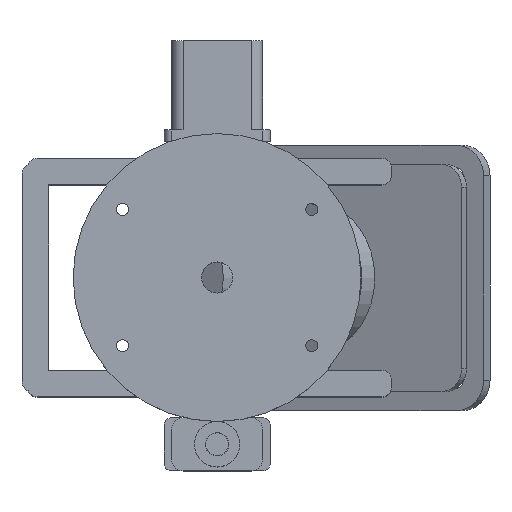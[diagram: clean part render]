
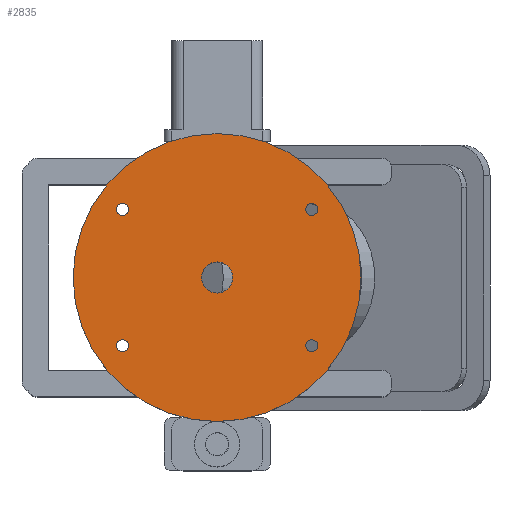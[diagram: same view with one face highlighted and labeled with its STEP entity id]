
A CAD part, top view. The second image highlights one B-rep face of the part: STEP entity #2835.
In plain terms, the highlighted planar face has unit normal (0, 0, 1).
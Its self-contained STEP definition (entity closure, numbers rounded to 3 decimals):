
#2700 = VERTEX_POINT('',#2701);
#2701 = CARTESIAN_POINT('',(38.,0.,7.));
#2708 = CYLINDRICAL_SURFACE('',#2709,38.);
#2709 = AXIS2_PLACEMENT_3D('',#2710,#2711,#2712);
#2710 = CARTESIAN_POINT('',(0.,0.,0.));
#2711 = DIRECTION('',(-0.,-0.,-1.));
#2712 = DIRECTION('',(1.,0.,0.));
#2727 = EDGE_CURVE('',#2700,#2700,#2728,.T.);
#2728 = SURFACE_CURVE('',#2729,(#2734,#2741),.PCURVE_S1.);
#2729 = CIRCLE('',#2730,38.);
#2730 = AXIS2_PLACEMENT_3D('',#2731,#2732,#2733);
#2731 = CARTESIAN_POINT('',(0.,0.,7.));
#2732 = DIRECTION('',(0.,0.,1.));
#2733 = DIRECTION('',(1.,0.,0.));
#2734 = PCURVE('',#2708,#2735);
#2735 = DEFINITIONAL_REPRESENTATION('',(#2736),#2740);
#2736 = LINE('',#2737,#2738);
#2737 = CARTESIAN_POINT('',(-0.,-7.));
#2738 = VECTOR('',#2739,1.);
#2739 = DIRECTION('',(-1.,0.));
#2740 = ( GEOMETRIC_REPRESENTATION_CONTEXT(2) 
PARAMETRIC_REPRESENTATION_CONTEXT() REPRESENTATION_CONTEXT('2D SPACE',''
  ) );
#2741 = PCURVE('',#2742,#2747);
#2742 = PLANE('',#2743);
#2743 = AXIS2_PLACEMENT_3D('',#2744,#2745,#2746);
#2744 = CARTESIAN_POINT('',(0.,0.,7.));
#2745 = DIRECTION('',(0.,0.,1.));
#2746 = DIRECTION('',(1.,0.,-0.));
#2747 = DEFINITIONAL_REPRESENTATION('',(#2748),#2752);
#2748 = CIRCLE('',#2749,38.);
#2749 = AXIS2_PLACEMENT_2D('',#2750,#2751);
#2750 = CARTESIAN_POINT('',(0.,0.));
#2751 = DIRECTION('',(1.,0.));
#2752 = ( GEOMETRIC_REPRESENTATION_CONTEXT(2) 
PARAMETRIC_REPRESENTATION_CONTEXT() REPRESENTATION_CONTEXT('2D SPACE',''
  ) );
#2835 = ADVANCED_FACE('',(#2836,#2839,#2874,#2909,#2944,#2979),#2742,.T.
  );
#2836 = FACE_BOUND('',#2837,.T.);
#2837 = EDGE_LOOP('',(#2838));
#2838 = ORIENTED_EDGE('',*,*,#2727,.T.);
#2839 = FACE_BOUND('',#2840,.T.);
#2840 = EDGE_LOOP('',(#2841));
#2841 = ORIENTED_EDGE('',*,*,#2842,.T.);
#2842 = EDGE_CURVE('',#2843,#2843,#2845,.T.);
#2843 = VERTEX_POINT('',#2844);
#2844 = CARTESIAN_POINT('',(-26.6,-18.,7.));
#2845 = SURFACE_CURVE('',#2846,(#2851,#2862),.PCURVE_S1.);
#2846 = CIRCLE('',#2847,1.6);
#2847 = AXIS2_PLACEMENT_3D('',#2848,#2849,#2850);
#2848 = CARTESIAN_POINT('',(-25.,-18.,7.));
#2849 = DIRECTION('',(0.,0.,-1.));
#2850 = DIRECTION('',(-1.,0.,0.));
#2851 = PCURVE('',#2742,#2852);
#2852 = DEFINITIONAL_REPRESENTATION('',(#2853),#2861);
#2853 = ( BOUNDED_CURVE() B_SPLINE_CURVE(2,(#2854,#2855,#2856,#2857,
#2858,#2859,#2860),.UNSPECIFIED.,.T.,.F.) B_SPLINE_CURVE_WITH_KNOTS((1,2
    ,2,2,2,1),(-2.094,0.,2.094,4.189,
6.283,8.378),.UNSPECIFIED.) CURVE() 
GEOMETRIC_REPRESENTATION_ITEM() RATIONAL_B_SPLINE_CURVE((1.,0.5,1.,0.5,
1.,0.5,1.)) REPRESENTATION_ITEM('') );
#2854 = CARTESIAN_POINT('',(-26.6,-18.));
#2855 = CARTESIAN_POINT('',(-26.6,-15.229));
#2856 = CARTESIAN_POINT('',(-24.2,-16.614));
#2857 = CARTESIAN_POINT('',(-21.8,-18.));
#2858 = CARTESIAN_POINT('',(-24.2,-19.386));
#2859 = CARTESIAN_POINT('',(-26.6,-20.771));
#2860 = CARTESIAN_POINT('',(-26.6,-18.));
#2861 = ( GEOMETRIC_REPRESENTATION_CONTEXT(2) 
PARAMETRIC_REPRESENTATION_CONTEXT() REPRESENTATION_CONTEXT('2D SPACE',''
  ) );
#2862 = PCURVE('',#2863,#2868);
#2863 = CYLINDRICAL_SURFACE('',#2864,1.6);
#2864 = AXIS2_PLACEMENT_3D('',#2865,#2866,#2867);
#2865 = CARTESIAN_POINT('',(-25.,-18.,7.));
#2866 = DIRECTION('',(0.,0.,-1.));
#2867 = DIRECTION('',(-1.,0.,0.));
#2868 = DEFINITIONAL_REPRESENTATION('',(#2869),#2873);
#2869 = LINE('',#2870,#2871);
#2870 = CARTESIAN_POINT('',(0.,0.));
#2871 = VECTOR('',#2872,1.);
#2872 = DIRECTION('',(1.,0.));
#2873 = ( GEOMETRIC_REPRESENTATION_CONTEXT(2) 
PARAMETRIC_REPRESENTATION_CONTEXT() REPRESENTATION_CONTEXT('2D SPACE',''
  ) );
#2874 = FACE_BOUND('',#2875,.T.);
#2875 = EDGE_LOOP('',(#2876));
#2876 = ORIENTED_EDGE('',*,*,#2877,.T.);
#2877 = EDGE_CURVE('',#2878,#2878,#2880,.T.);
#2878 = VERTEX_POINT('',#2879);
#2879 = CARTESIAN_POINT('',(23.4,-18.,7.));
#2880 = SURFACE_CURVE('',#2881,(#2886,#2897),.PCURVE_S1.);
#2881 = CIRCLE('',#2882,1.6);
#2882 = AXIS2_PLACEMENT_3D('',#2883,#2884,#2885);
#2883 = CARTESIAN_POINT('',(25.,-18.,7.));
#2884 = DIRECTION('',(0.,0.,-1.));
#2885 = DIRECTION('',(-1.,0.,0.));
#2886 = PCURVE('',#2742,#2887);
#2887 = DEFINITIONAL_REPRESENTATION('',(#2888),#2896);
#2888 = ( BOUNDED_CURVE() B_SPLINE_CURVE(2,(#2889,#2890,#2891,#2892,
#2893,#2894,#2895),.UNSPECIFIED.,.T.,.F.) B_SPLINE_CURVE_WITH_KNOTS((1,2
    ,2,2,2,1),(-2.094,0.,2.094,4.189,
6.283,8.378),.UNSPECIFIED.) CURVE() 
GEOMETRIC_REPRESENTATION_ITEM() RATIONAL_B_SPLINE_CURVE((1.,0.5,1.,0.5,
1.,0.5,1.)) REPRESENTATION_ITEM('') );
#2889 = CARTESIAN_POINT('',(23.4,-18.));
#2890 = CARTESIAN_POINT('',(23.4,-15.229));
#2891 = CARTESIAN_POINT('',(25.8,-16.614));
#2892 = CARTESIAN_POINT('',(28.2,-18.));
#2893 = CARTESIAN_POINT('',(25.8,-19.386));
#2894 = CARTESIAN_POINT('',(23.4,-20.771));
#2895 = CARTESIAN_POINT('',(23.4,-18.));
#2896 = ( GEOMETRIC_REPRESENTATION_CONTEXT(2) 
PARAMETRIC_REPRESENTATION_CONTEXT() REPRESENTATION_CONTEXT('2D SPACE',''
  ) );
#2897 = PCURVE('',#2898,#2903);
#2898 = CYLINDRICAL_SURFACE('',#2899,1.6);
#2899 = AXIS2_PLACEMENT_3D('',#2900,#2901,#2902);
#2900 = CARTESIAN_POINT('',(25.,-18.,7.));
#2901 = DIRECTION('',(0.,0.,-1.));
#2902 = DIRECTION('',(-1.,0.,0.));
#2903 = DEFINITIONAL_REPRESENTATION('',(#2904),#2908);
#2904 = LINE('',#2905,#2906);
#2905 = CARTESIAN_POINT('',(0.,0.));
#2906 = VECTOR('',#2907,1.);
#2907 = DIRECTION('',(1.,0.));
#2908 = ( GEOMETRIC_REPRESENTATION_CONTEXT(2) 
PARAMETRIC_REPRESENTATION_CONTEXT() REPRESENTATION_CONTEXT('2D SPACE',''
  ) );
#2909 = FACE_BOUND('',#2910,.T.);
#2910 = EDGE_LOOP('',(#2911));
#2911 = ORIENTED_EDGE('',*,*,#2912,.T.);
#2912 = EDGE_CURVE('',#2913,#2913,#2915,.T.);
#2913 = VERTEX_POINT('',#2914);
#2914 = CARTESIAN_POINT('',(-26.6,18.,7.));
#2915 = SURFACE_CURVE('',#2916,(#2921,#2932),.PCURVE_S1.);
#2916 = CIRCLE('',#2917,1.6);
#2917 = AXIS2_PLACEMENT_3D('',#2918,#2919,#2920);
#2918 = CARTESIAN_POINT('',(-25.,18.,7.));
#2919 = DIRECTION('',(0.,0.,-1.));
#2920 = DIRECTION('',(-1.,0.,0.));
#2921 = PCURVE('',#2742,#2922);
#2922 = DEFINITIONAL_REPRESENTATION('',(#2923),#2931);
#2923 = ( BOUNDED_CURVE() B_SPLINE_CURVE(2,(#2924,#2925,#2926,#2927,
#2928,#2929,#2930),.UNSPECIFIED.,.T.,.F.) B_SPLINE_CURVE_WITH_KNOTS((1,2
    ,2,2,2,1),(-2.094,0.,2.094,4.189,
6.283,8.378),.UNSPECIFIED.) CURVE() 
GEOMETRIC_REPRESENTATION_ITEM() RATIONAL_B_SPLINE_CURVE((1.,0.5,1.,0.5,
1.,0.5,1.)) REPRESENTATION_ITEM('') );
#2924 = CARTESIAN_POINT('',(-26.6,18.));
#2925 = CARTESIAN_POINT('',(-26.6,20.771));
#2926 = CARTESIAN_POINT('',(-24.2,19.386));
#2927 = CARTESIAN_POINT('',(-21.8,18.));
#2928 = CARTESIAN_POINT('',(-24.2,16.614));
#2929 = CARTESIAN_POINT('',(-26.6,15.229));
#2930 = CARTESIAN_POINT('',(-26.6,18.));
#2931 = ( GEOMETRIC_REPRESENTATION_CONTEXT(2) 
PARAMETRIC_REPRESENTATION_CONTEXT() REPRESENTATION_CONTEXT('2D SPACE',''
  ) );
#2932 = PCURVE('',#2933,#2938);
#2933 = CYLINDRICAL_SURFACE('',#2934,1.6);
#2934 = AXIS2_PLACEMENT_3D('',#2935,#2936,#2937);
#2935 = CARTESIAN_POINT('',(-25.,18.,7.));
#2936 = DIRECTION('',(0.,0.,-1.));
#2937 = DIRECTION('',(-1.,0.,0.));
#2938 = DEFINITIONAL_REPRESENTATION('',(#2939),#2943);
#2939 = LINE('',#2940,#2941);
#2940 = CARTESIAN_POINT('',(0.,0.));
#2941 = VECTOR('',#2942,1.);
#2942 = DIRECTION('',(1.,0.));
#2943 = ( GEOMETRIC_REPRESENTATION_CONTEXT(2) 
PARAMETRIC_REPRESENTATION_CONTEXT() REPRESENTATION_CONTEXT('2D SPACE',''
  ) );
#2944 = FACE_BOUND('',#2945,.T.);
#2945 = EDGE_LOOP('',(#2946));
#2946 = ORIENTED_EDGE('',*,*,#2947,.T.);
#2947 = EDGE_CURVE('',#2948,#2948,#2950,.T.);
#2948 = VERTEX_POINT('',#2949);
#2949 = CARTESIAN_POINT('',(4.1,0.,7.));
#2950 = SURFACE_CURVE('',#2951,(#2956,#2967),.PCURVE_S1.);
#2951 = CIRCLE('',#2952,4.1);
#2952 = AXIS2_PLACEMENT_3D('',#2953,#2954,#2955);
#2953 = CARTESIAN_POINT('',(0.,0.,7.));
#2954 = DIRECTION('',(0.,0.,-1.));
#2955 = DIRECTION('',(1.,0.,0.));
#2956 = PCURVE('',#2742,#2957);
#2957 = DEFINITIONAL_REPRESENTATION('',(#2958),#2966);
#2958 = ( BOUNDED_CURVE() B_SPLINE_CURVE(2,(#2959,#2960,#2961,#2962,
#2963,#2964,#2965),.UNSPECIFIED.,.T.,.F.) B_SPLINE_CURVE_WITH_KNOTS((1,2
    ,2,2,2,1),(-2.094,0.,2.094,4.189,
6.283,8.378),.UNSPECIFIED.) CURVE() 
GEOMETRIC_REPRESENTATION_ITEM() RATIONAL_B_SPLINE_CURVE((1.,0.5,1.,0.5,
1.,0.5,1.)) REPRESENTATION_ITEM('') );
#2959 = CARTESIAN_POINT('',(4.1,0.));
#2960 = CARTESIAN_POINT('',(4.1,-7.101));
#2961 = CARTESIAN_POINT('',(-2.05,-3.551));
#2962 = CARTESIAN_POINT('',(-8.2,0.));
#2963 = CARTESIAN_POINT('',(-2.05,3.551));
#2964 = CARTESIAN_POINT('',(4.1,7.101));
#2965 = CARTESIAN_POINT('',(4.1,0.));
#2966 = ( GEOMETRIC_REPRESENTATION_CONTEXT(2) 
PARAMETRIC_REPRESENTATION_CONTEXT() REPRESENTATION_CONTEXT('2D SPACE',''
  ) );
#2967 = PCURVE('',#2968,#2973);
#2968 = CYLINDRICAL_SURFACE('',#2969,4.1);
#2969 = AXIS2_PLACEMENT_3D('',#2970,#2971,#2972);
#2970 = CARTESIAN_POINT('',(0.,0.,0.));
#2971 = DIRECTION('',(-0.,-0.,-1.));
#2972 = DIRECTION('',(1.,0.,0.));
#2973 = DEFINITIONAL_REPRESENTATION('',(#2974),#2978);
#2974 = LINE('',#2975,#2976);
#2975 = CARTESIAN_POINT('',(-6.283,-7.));
#2976 = VECTOR('',#2977,1.);
#2977 = DIRECTION('',(1.,-0.));
#2978 = ( GEOMETRIC_REPRESENTATION_CONTEXT(2) 
PARAMETRIC_REPRESENTATION_CONTEXT() REPRESENTATION_CONTEXT('2D SPACE',''
  ) );
#2979 = FACE_BOUND('',#2980,.T.);
#2980 = EDGE_LOOP('',(#2981));
#2981 = ORIENTED_EDGE('',*,*,#2982,.T.);
#2982 = EDGE_CURVE('',#2983,#2983,#2985,.T.);
#2983 = VERTEX_POINT('',#2984);
#2984 = CARTESIAN_POINT('',(23.4,18.,7.));
#2985 = SURFACE_CURVE('',#2986,(#2991,#3002),.PCURVE_S1.);
#2986 = CIRCLE('',#2987,1.6);
#2987 = AXIS2_PLACEMENT_3D('',#2988,#2989,#2990);
#2988 = CARTESIAN_POINT('',(25.,18.,7.));
#2989 = DIRECTION('',(0.,0.,-1.));
#2990 = DIRECTION('',(-1.,0.,0.));
#2991 = PCURVE('',#2742,#2992);
#2992 = DEFINITIONAL_REPRESENTATION('',(#2993),#3001);
#2993 = ( BOUNDED_CURVE() B_SPLINE_CURVE(2,(#2994,#2995,#2996,#2997,
#2998,#2999,#3000),.UNSPECIFIED.,.T.,.F.) B_SPLINE_CURVE_WITH_KNOTS((1,2
    ,2,2,2,1),(-2.094,0.,2.094,4.189,
6.283,8.378),.UNSPECIFIED.) CURVE() 
GEOMETRIC_REPRESENTATION_ITEM() RATIONAL_B_SPLINE_CURVE((1.,0.5,1.,0.5,
1.,0.5,1.)) REPRESENTATION_ITEM('') );
#2994 = CARTESIAN_POINT('',(23.4,18.));
#2995 = CARTESIAN_POINT('',(23.4,20.771));
#2996 = CARTESIAN_POINT('',(25.8,19.386));
#2997 = CARTESIAN_POINT('',(28.2,18.));
#2998 = CARTESIAN_POINT('',(25.8,16.614));
#2999 = CARTESIAN_POINT('',(23.4,15.229));
#3000 = CARTESIAN_POINT('',(23.4,18.));
#3001 = ( GEOMETRIC_REPRESENTATION_CONTEXT(2) 
PARAMETRIC_REPRESENTATION_CONTEXT() REPRESENTATION_CONTEXT('2D SPACE',''
  ) );
#3002 = PCURVE('',#3003,#3008);
#3003 = CYLINDRICAL_SURFACE('',#3004,1.6);
#3004 = AXIS2_PLACEMENT_3D('',#3005,#3006,#3007);
#3005 = CARTESIAN_POINT('',(25.,18.,7.));
#3006 = DIRECTION('',(0.,0.,-1.));
#3007 = DIRECTION('',(-1.,0.,0.));
#3008 = DEFINITIONAL_REPRESENTATION('',(#3009),#3013);
#3009 = LINE('',#3010,#3011);
#3010 = CARTESIAN_POINT('',(0.,0.));
#3011 = VECTOR('',#3012,1.);
#3012 = DIRECTION('',(1.,0.));
#3013 = ( GEOMETRIC_REPRESENTATION_CONTEXT(2) 
PARAMETRIC_REPRESENTATION_CONTEXT() REPRESENTATION_CONTEXT('2D SPACE',''
  ) );
